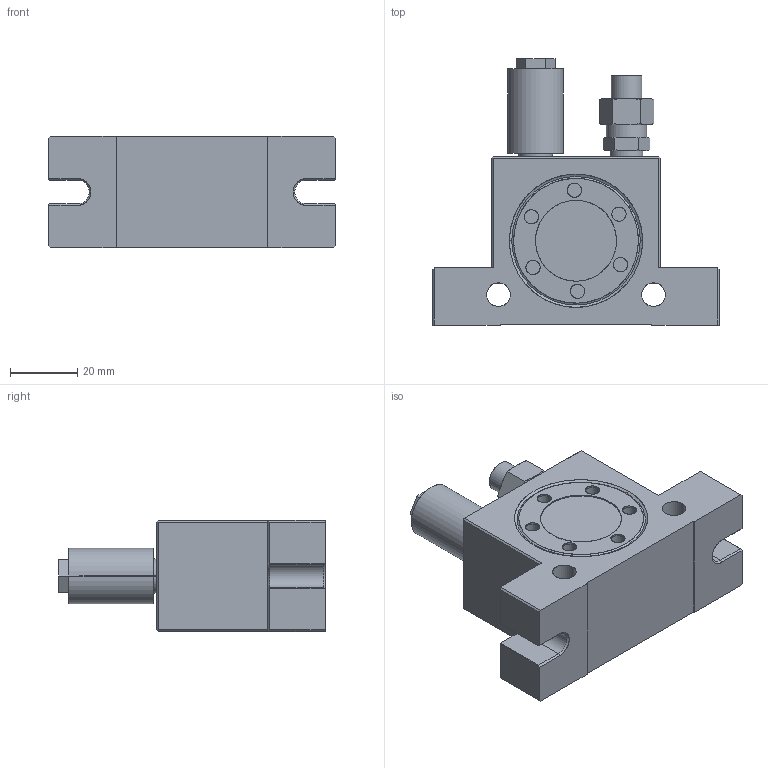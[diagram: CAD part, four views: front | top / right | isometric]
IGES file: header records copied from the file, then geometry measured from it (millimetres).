
Start section: SolidWorks IGES file using analytic representation for surfaces
Global section: file name: V:\WORK\08133\HP 寸法図\turbine\UT322\test_J24000A-000 UT322_defeature.IGS,15; native system: HSolidWorks 2018; preprocessor: SolidWorks 2018; author: n-udagawa; date: 230118.115829; units: millimetre
Bounding box: 85 x 79 x 33 mm (x, y, z)
Surface area: 20581.1 mm2 (no closed solid volume)
Topology: 0 solids, 0 shells, 185 faces, 3218 edges, 3636 vertices
Faces by surface type: bspline 95, revolution 90
